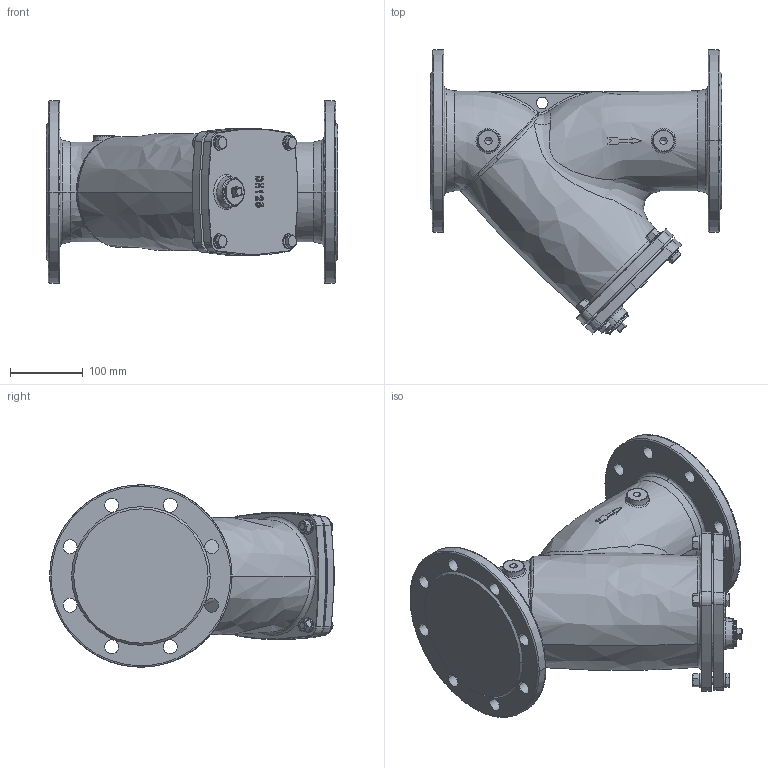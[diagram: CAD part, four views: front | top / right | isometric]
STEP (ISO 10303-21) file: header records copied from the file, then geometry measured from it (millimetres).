
FILE_DESCRIPTION (( 'STEP AP203' ), '1' );
FILE_NAME ('11.000C DN125.STEP', '2022-09-05T09:03:01', ( '' ), ( '' ), 'SwSTEP 2.0', 'SolidWorks 2017', '' );
FILE_SCHEMA (( 'CONFIG_CONTROL_DESIGN' ));
Length unit declared in the file: millimetre
Products named in the file (1): 11.000C DN125
Bounding box: 400 x 390.08 x 250 mm (x, y, z)
Volume: 11142790.4 mm3; surface area: 535934.7 mm2
Topology: 1 solids, 7 shells, 562 faces, 1320 edges, 826 vertices
Faces by surface type: plane 191, cylinder 137, bspline 132, cone 102
Entity records: 54016 total; most frequent: CARTESIAN_POINT 41984, ORIENTED_EDGE 2618, DIRECTION 2232, EDGE_CURVE 1309, AXIS2_PLACEMENT_3D 902, VERTEX_POINT 826, EDGE_LOOP 669, ADVANCED_FACE 562
